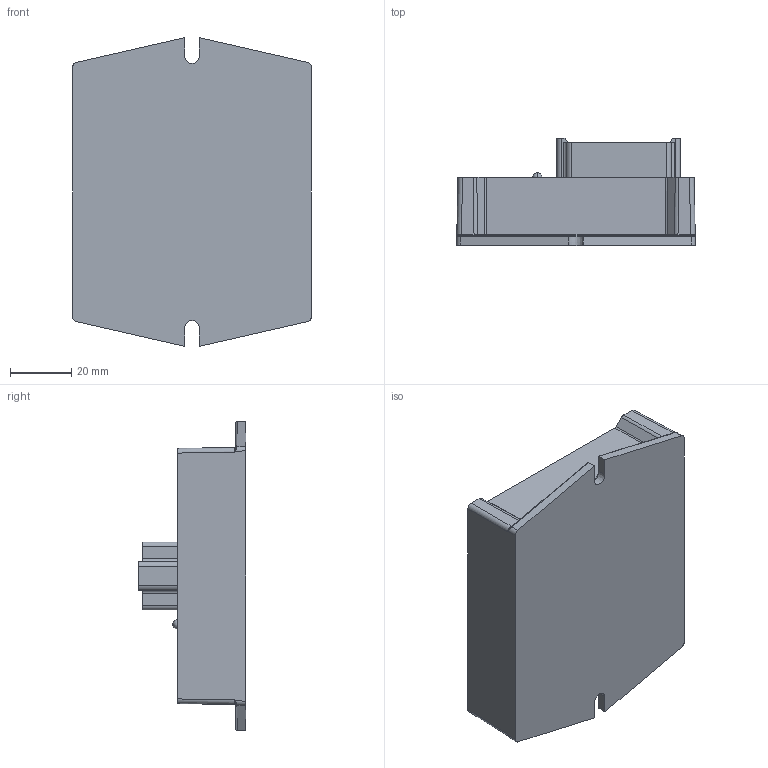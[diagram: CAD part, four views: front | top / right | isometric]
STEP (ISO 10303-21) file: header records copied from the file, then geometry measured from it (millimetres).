
FILE_DESCRIPTION (( 'STEP AP214' ), '1' );
FILE_NAME ('505004.STEP', '2022-08-17T15:14:26', ( '' ), ( '' ), 'SwSTEP 2.0', 'SolidWorks 2022', '' );
FILE_SCHEMA (( 'AUTOMOTIVE_DESIGN' ));
Length unit declared in the file: inch
Products named in the file (6): 12450DB; 505004; DT15-12PA-NF.step; 13385BA(13382AX1); 505004_Potting; LED 3mm Bi_Standard
Assembly tree (5 placements, depth 2):
  505004
    12450DB
    13385BA(13382AX1)
    DT15-12PA-NF.step
    505004_Potting
    LED 3mm Bi_Standard
Bounding box: 78.18 x 35.13 x 101.09 mm (x, y, z)
Volume: 149124.5 mm3; surface area: 62865.1 mm2
Topology: 5 solids, 5 shells, 464 faces, 1154 edges, 723 vertices
Faces by surface type: cylinder 175, plane 174, bspline 55, torus 50, cone 8, sphere 2
Entity records: 17272 total; most frequent: CARTESIAN_POINT 4294, ORIENTED_EDGE 2288, DIRECTION 2276, EDGE_CURVE 1144, AXIS2_PLACEMENT_3D 849, VERTEX_POINT 723, LINE 578, VECTOR 578
